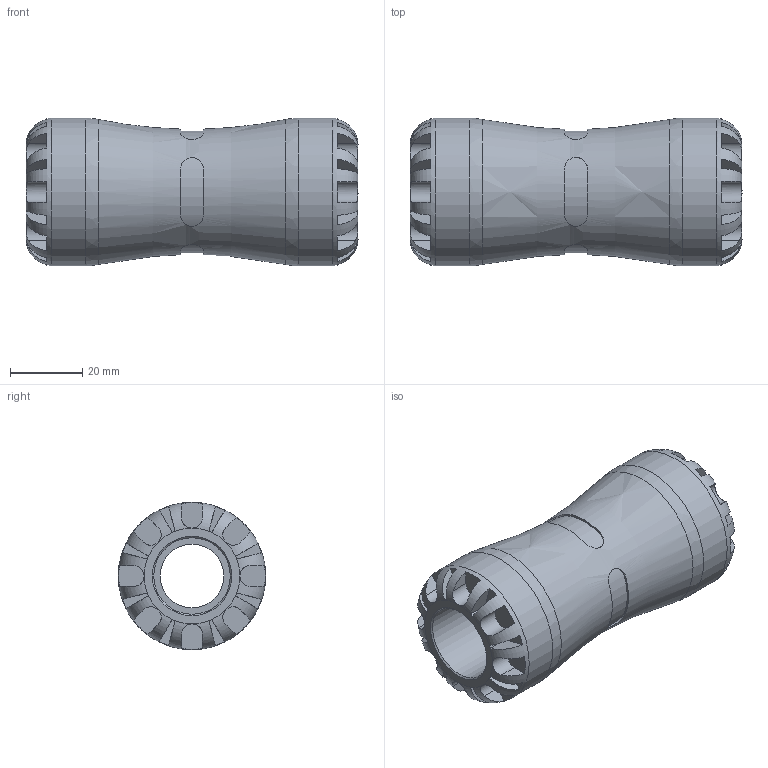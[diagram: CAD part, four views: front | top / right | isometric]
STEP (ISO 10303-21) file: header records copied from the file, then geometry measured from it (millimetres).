
FILE_DESCRIPTION(/* description */ ('PLASSON COUPLER 1/2''''IPS x 1/2''''IPS SERIES 1'),/* implementation_level */ '2;1');
FILE_NAME(/* name */ 'C:\Dropbox\KIMPROJECTS-Inventor 2019\99-16-3568-Processing Inch\ASTM S1 2021\1001A\1001A6005.ipt.stp',/* time_stamp */ '2021-09-02T11:59:54+03:00',/* author */ ('KIM'),/* organization */ (''),/* preprocessor_version */ 'ST-DEVELOPER v17.2',/* originating_system */ 'Autodesk Inventor 2019',/* authorisation */ '');
FILE_SCHEMA (('AUTOMOTIVE_DESIGN { 1 0 10303 214 3 1 1 }'));
Length unit declared in the file: inch
Products named in the file (1): 1001A6005
Bounding box: 91.95 x 40.89 x 40.89 mm (x, y, z)
Volume: 68708.5 mm3; surface area: 20542.9 mm2
Topology: 1 solids, 1 shells, 164 faces, 431 edges, 274 vertices
Faces by surface type: plane 108, cylinder 49, torus 3, cone 2, bspline 2
Full cylindrical faces by diameter (mm): 17.667 x1, 21.2 x2, 40.894 x2
Entity records: 6681 total; most frequent: CARTESIAN_POINT 2502, ORIENTED_EDGE 862, DIRECTION 813, EDGE_CURVE 431, AXIS2_PLACEMENT_3D 331, VERTEX_POINT 274, EDGE_LOOP 171, CIRCLE 168
